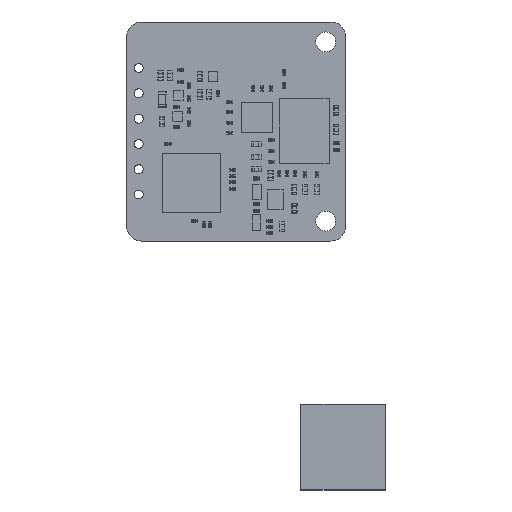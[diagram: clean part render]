
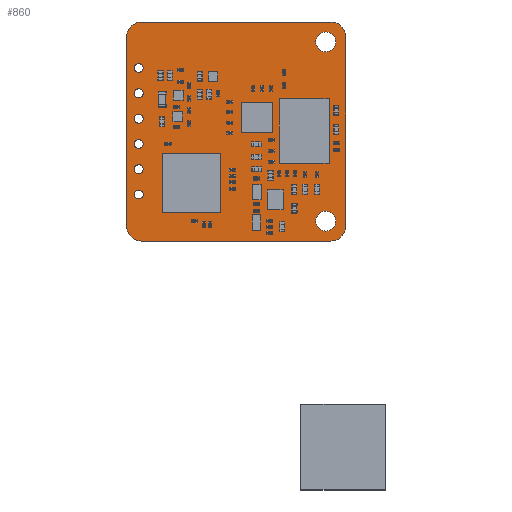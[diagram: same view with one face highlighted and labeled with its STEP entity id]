
A CAD part, top view. The second image highlights one B-rep face of the part: STEP entity #860.
In plain terms, the highlighted planar face has unit normal (0, 0, 1).
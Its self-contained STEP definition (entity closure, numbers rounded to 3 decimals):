
#307 = VERTEX_POINT('',#308);
#308 = CARTESIAN_POINT('',(20.06,29.31,0.));
#314 = EDGE_CURVE('',#307,#315,#317,.T.);
#315 = VERTEX_POINT('',#316);
#316 = CARTESIAN_POINT('',(39.06,29.31,0.));
#317 = LINE('',#318,#319);
#318 = CARTESIAN_POINT('',(20.06,29.31,0.));
#319 = VECTOR('',#320,1.);
#320 = DIRECTION('',(1.,0.,0.));
#345 = EDGE_CURVE('',#315,#346,#348,.T.);
#346 = VERTEX_POINT('',#347);
#347 = CARTESIAN_POINT('',(40.56,27.81,0.));
#348 = CIRCLE('',#349,1.499);
#349 = AXIS2_PLACEMENT_3D('',#350,#351,#352);
#350 = CARTESIAN_POINT('',(39.061,27.811,0.));
#351 = DIRECTION('',(0.,0.,-1.));
#352 = DIRECTION('',(-0.001,1.,0.));
#378 = EDGE_CURVE('',#346,#379,#381,.T.);
#379 = VERTEX_POINT('',#380);
#380 = CARTESIAN_POINT('',(40.56,8.81,0.));
#381 = LINE('',#382,#383);
#382 = CARTESIAN_POINT('',(40.56,27.81,0.));
#383 = VECTOR('',#384,1.);
#384 = DIRECTION('',(0.,-1.,0.));
#409 = EDGE_CURVE('',#379,#410,#412,.T.);
#410 = VERTEX_POINT('',#411);
#411 = CARTESIAN_POINT('',(39.06,7.31,0.));
#412 = CIRCLE('',#413,1.501);
#413 = AXIS2_PLACEMENT_3D('',#414,#415,#416);
#414 = CARTESIAN_POINT('',(39.059,8.811,0.));
#415 = DIRECTION('',(0.,0.,-1.));
#416 = DIRECTION('',(1.,0.,0.));
#442 = EDGE_CURVE('',#410,#443,#445,.T.);
#443 = VERTEX_POINT('',#444);
#444 = CARTESIAN_POINT('',(20.06,7.31,0.));
#445 = LINE('',#446,#447);
#446 = CARTESIAN_POINT('',(39.06,7.31,0.));
#447 = VECTOR('',#448,1.);
#448 = DIRECTION('',(-1.,0.,0.));
#473 = EDGE_CURVE('',#443,#474,#476,.T.);
#474 = VERTEX_POINT('',#475);
#475 = CARTESIAN_POINT('',(18.56,8.81,0.));
#476 = CIRCLE('',#477,1.502);
#477 = AXIS2_PLACEMENT_3D('',#478,#479,#480);
#478 = CARTESIAN_POINT('',(20.062,8.812,0.));
#479 = DIRECTION('',(0.,0.,-1.));
#480 = DIRECTION('',(-0.002,-1.,0.));
#506 = EDGE_CURVE('',#474,#507,#509,.T.);
#507 = VERTEX_POINT('',#508);
#508 = CARTESIAN_POINT('',(18.56,27.81,0.));
#509 = LINE('',#510,#511);
#510 = CARTESIAN_POINT('',(18.56,8.81,0.));
#511 = VECTOR('',#512,1.);
#512 = DIRECTION('',(0.,1.,0.));
#537 = EDGE_CURVE('',#507,#307,#538,.T.);
#538 = CIRCLE('',#539,1.501);
#539 = AXIS2_PLACEMENT_3D('',#540,#541,#542);
#540 = CARTESIAN_POINT('',(20.061,27.809,0.));
#541 = DIRECTION('',(0.,0.,-1.));
#542 = DIRECTION('',(-1.,0.,0.));
#563 = VERTEX_POINT('',#564);
#564 = CARTESIAN_POINT('',(20.21,17.065,0.));
#570 = EDGE_CURVE('',#563,#563,#571,.T.);
#571 = CIRCLE('',#572,0.45);
#572 = AXIS2_PLACEMENT_3D('',#573,#574,#575);
#573 = CARTESIAN_POINT('',(19.76,17.065,0.));
#574 = DIRECTION('',(0.,0.,1.));
#575 = DIRECTION('',(1.,0.,0.));
#596 = VERTEX_POINT('',#597);
#597 = CARTESIAN_POINT('',(20.21,14.525,0.));
#603 = EDGE_CURVE('',#596,#596,#604,.T.);
#604 = CIRCLE('',#605,0.45);
#605 = AXIS2_PLACEMENT_3D('',#606,#607,#608);
#606 = CARTESIAN_POINT('',(19.76,14.525,0.));
#607 = DIRECTION('',(0.,0.,1.));
#608 = DIRECTION('',(1.,0.,0.));
#629 = VERTEX_POINT('',#630);
#630 = CARTESIAN_POINT('',(20.21,24.685,0.));
#636 = EDGE_CURVE('',#629,#629,#637,.T.);
#637 = CIRCLE('',#638,0.45);
#638 = AXIS2_PLACEMENT_3D('',#639,#640,#641);
#639 = CARTESIAN_POINT('',(19.76,24.685,0.));
#640 = DIRECTION('',(0.,0.,1.));
#641 = DIRECTION('',(1.,0.,0.));
#662 = VERTEX_POINT('',#663);
#663 = CARTESIAN_POINT('',(20.21,19.605,0.));
#669 = EDGE_CURVE('',#662,#662,#670,.T.);
#670 = CIRCLE('',#671,0.45);
#671 = AXIS2_PLACEMENT_3D('',#672,#673,#674);
#672 = CARTESIAN_POINT('',(19.76,19.605,0.));
#673 = DIRECTION('',(0.,0.,1.));
#674 = DIRECTION('',(1.,0.,0.));
#695 = VERTEX_POINT('',#696);
#696 = CARTESIAN_POINT('',(20.21,11.985,0.));
#702 = EDGE_CURVE('',#695,#695,#703,.T.);
#703 = CIRCLE('',#704,0.45);
#704 = AXIS2_PLACEMENT_3D('',#705,#706,#707);
#705 = CARTESIAN_POINT('',(19.76,11.985,0.));
#706 = DIRECTION('',(0.,0.,1.));
#707 = DIRECTION('',(1.,0.,0.));
#728 = VERTEX_POINT('',#729);
#729 = CARTESIAN_POINT('',(39.56,9.31,0.));
#735 = EDGE_CURVE('',#728,#728,#736,.T.);
#736 = CIRCLE('',#737,1.);
#737 = AXIS2_PLACEMENT_3D('',#738,#739,#740);
#738 = CARTESIAN_POINT('',(38.56,9.31,0.));
#739 = DIRECTION('',(0.,0.,1.));
#740 = DIRECTION('',(1.,0.,0.));
#761 = VERTEX_POINT('',#762);
#762 = CARTESIAN_POINT('',(20.21,22.145,0.));
#768 = EDGE_CURVE('',#761,#761,#769,.T.);
#769 = CIRCLE('',#770,0.45);
#770 = AXIS2_PLACEMENT_3D('',#771,#772,#773);
#771 = CARTESIAN_POINT('',(19.76,22.145,0.));
#772 = DIRECTION('',(0.,0.,1.));
#773 = DIRECTION('',(1.,0.,0.));
#794 = VERTEX_POINT('',#795);
#795 = CARTESIAN_POINT('',(39.56,27.31,0.));
#801 = EDGE_CURVE('',#794,#794,#802,.T.);
#802 = CIRCLE('',#803,1.);
#803 = AXIS2_PLACEMENT_3D('',#804,#805,#806);
#804 = CARTESIAN_POINT('',(38.56,27.31,0.));
#805 = DIRECTION('',(0.,0.,1.));
#806 = DIRECTION('',(1.,0.,0.));
#860 = ADVANCED_FACE('',(#861,#871,#874,#877,#880,#883,#886,#889,#892),
  #895,.T.);
#861 = FACE_BOUND('',#862,.F.);
#862 = EDGE_LOOP('',(#863,#864,#865,#866,#867,#868,#869,#870));
#863 = ORIENTED_EDGE('',*,*,#314,.T.);
#864 = ORIENTED_EDGE('',*,*,#345,.T.);
#865 = ORIENTED_EDGE('',*,*,#378,.T.);
#866 = ORIENTED_EDGE('',*,*,#409,.T.);
#867 = ORIENTED_EDGE('',*,*,#442,.T.);
#868 = ORIENTED_EDGE('',*,*,#473,.T.);
#869 = ORIENTED_EDGE('',*,*,#506,.T.);
#870 = ORIENTED_EDGE('',*,*,#537,.T.);
#871 = FACE_BOUND('',#872,.T.);
#872 = EDGE_LOOP('',(#873));
#873 = ORIENTED_EDGE('',*,*,#570,.F.);
#874 = FACE_BOUND('',#875,.T.);
#875 = EDGE_LOOP('',(#876));
#876 = ORIENTED_EDGE('',*,*,#603,.F.);
#877 = FACE_BOUND('',#878,.T.);
#878 = EDGE_LOOP('',(#879));
#879 = ORIENTED_EDGE('',*,*,#636,.F.);
#880 = FACE_BOUND('',#881,.T.);
#881 = EDGE_LOOP('',(#882));
#882 = ORIENTED_EDGE('',*,*,#669,.F.);
#883 = FACE_BOUND('',#884,.T.);
#884 = EDGE_LOOP('',(#885));
#885 = ORIENTED_EDGE('',*,*,#702,.F.);
#886 = FACE_BOUND('',#887,.T.);
#887 = EDGE_LOOP('',(#888));
#888 = ORIENTED_EDGE('',*,*,#735,.F.);
#889 = FACE_BOUND('',#890,.T.);
#890 = EDGE_LOOP('',(#891));
#891 = ORIENTED_EDGE('',*,*,#768,.F.);
#892 = FACE_BOUND('',#893,.T.);
#893 = EDGE_LOOP('',(#894));
#894 = ORIENTED_EDGE('',*,*,#801,.F.);
#895 = PLANE('',#896);
#896 = AXIS2_PLACEMENT_3D('',#897,#898,#899);
#897 = CARTESIAN_POINT('',(20.06,29.31,0.));
#898 = DIRECTION('',(0.,0.,1.));
#899 = DIRECTION('',(1.,0.,0.));
